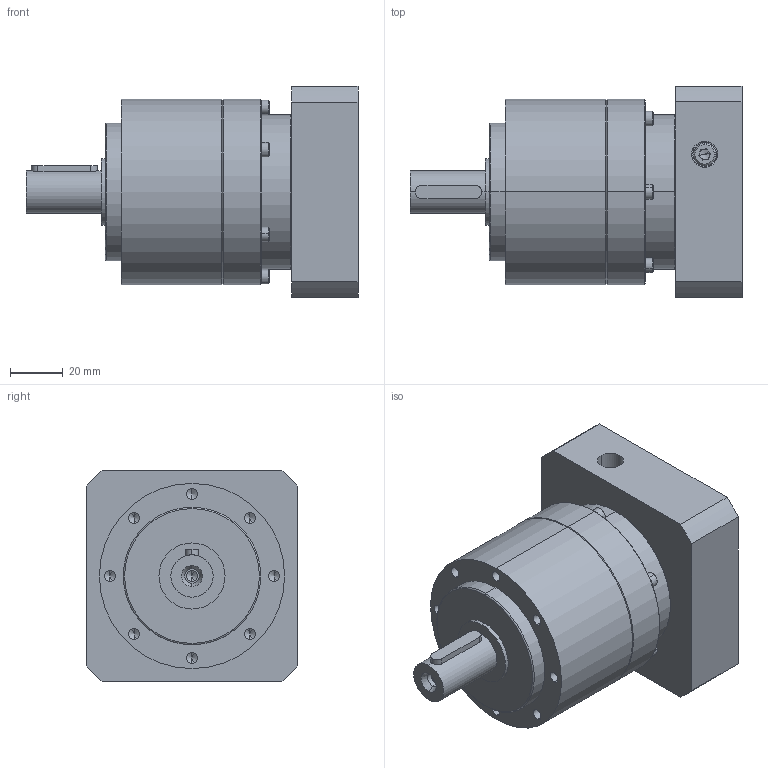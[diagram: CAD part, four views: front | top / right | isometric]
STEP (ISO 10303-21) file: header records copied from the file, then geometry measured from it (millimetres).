
FILE_DESCRIPTION (( 'STEP AP203' ), '1' );
FILE_NAME ('6C2YS.070080.031.STEP', '2019-06-18T00:24:22', ( '' ), ( '' ), 'SwSTEP 2.0', 'SolidWorks 2010', '' );
FILE_SCHEMA (( 'CONFIG_CONTROL_DESIGN' ));
Length unit declared in the file: millimetre
Products named in the file (8): 雙圓鍵5×5_Default; M4､ｺ､ｻｨ､ﾁｳｵｷ[ｼﾒｲﾕ､ﾆ]12~70mm_M4xP0.7x16L; 6C2YS.070080.031; PGCH70-B(模型)_6.成品3-4-5-7-10 108T; PGCH70-BP19(模型)_PGLH60後蓋成品; 沉頭內六角M5xP0.8x15L_CB5-5; 沉頭內六角M3x20_CB3-5; PHF60馬達連接板2341F23232_4.成品
Assembly tree (15 placements, depth 2):
  6C2YS.070080.031
    PGCH70-BP19(模型)_PGLH60後蓋成品
    M4､ｺ､ｻｨ､ﾁｳｵｷ[ｼﾒｲﾕ､ﾆ]12~70mm_M4xP0.7x16L  x4
    沉頭內六角M3x20_CB3-5  x6
    雙圓鍵5×5_Default
    PGCH70-B(模型)_6.成品3-4-5-7-10 108T
    沉頭內六角M5xP0.8x15L_CB5-5
    PHF60馬達連接板2341F23232_4.成品
Bounding box: 125.5 x 80 x 80 mm (x, y, z)
Volume: 363816.8 mm3; surface area: 69039.1 mm2
Topology: 15 solids, 15 shells, 661 faces, 1621 edges, 978 vertices
Faces by surface type: cylinder 298, plane 207, cone 146, bspline 8, torus 2
Entity records: 15397 total; most frequent: CARTESIAN_POINT 6169, DIRECTION 1803, ORIENTED_EDGE 1608, EDGE_CURVE 804, AXIS2_PLACEMENT_3D 713, VERTEX_POINT 505, EDGE_LOOP 421, LINE 377
